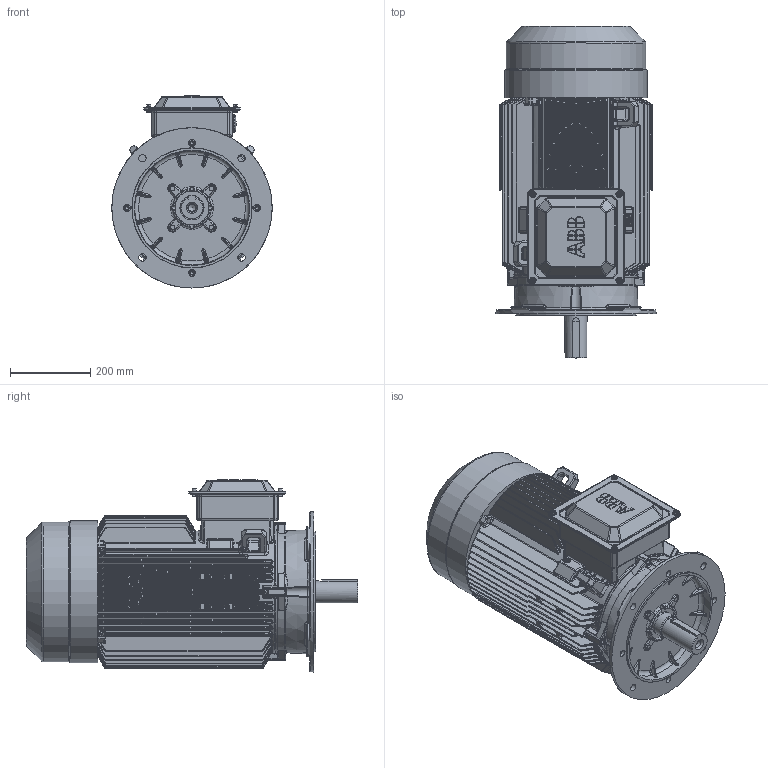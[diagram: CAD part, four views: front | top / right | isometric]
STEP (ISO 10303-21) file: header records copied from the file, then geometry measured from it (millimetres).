
FILE_DESCRIPTION(/* description */ (''),/* implementation_level */ '2;1');
FILE_NAME(/* name */ '3GZC500020-42.stp',/* time_stamp */ '2019-03-14T15:41:28+08:00',/* author */ (''),/* organization */ (''),/* preprocessor_version */ 'ST-DEVELOPER v16.7',/* originating_system */ 'SIEMENS PLM Software NX 12.0',/* authorisation */ '');
FILE_SCHEMA (('AUTOMOTIVE_DESIGN { 1 0 10303 214 3 1 1 1 }'));
Products named in the file (1): CNSE39CC293Aci1h
Bounding box: 400 x 827.99 x 479.2 mm (x, y, z)
Volume: 64458120.3 mm3; surface area: 2857879.1 mm2
Topology: 15 solids, 32 shells, 3907 faces, 9248 edges, 5347 vertices
Faces by surface type: cylinder 1354, bspline 1301, plane 780, torus 254, sphere 129, cone 85, extrusion 4
Full cylindrical faces by diameter (mm): 2.5 x8, 5 x6, 5.1 x1, 6 x6, 7 x10, 8.5 x8, 10 x7, 10.3 x1, 11 x8, 12.5 x4, 14 x2, 14.9 x4, 15.6 x2, 17 x8, 17.5 x1, 17.6 x2, 18.5 x4, 20 x1, 21 x1, 34 x2, 46 x2, 48 x1, 54.4 x1, 55 x1, 59.998 x1, 60 x1, 71 x1, 299 x2, 300 x1, 348.5 x1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
Entity records: 136079 total; most frequent: CARTESIAN_POINT 55028, ORIENTED_EDGE 17696, DIRECTION 15403, EDGE_CURVE 8848, AXIS2_PLACEMENT_3D 6324, VERTEX_POINT 5272, EDGE_LOOP 4214, ADVANCED_FACE 3907
